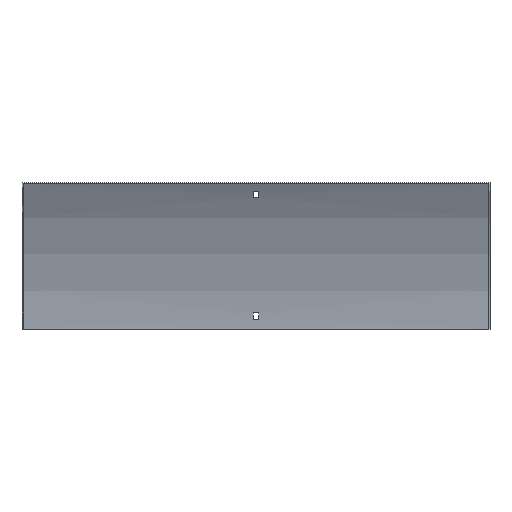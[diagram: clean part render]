
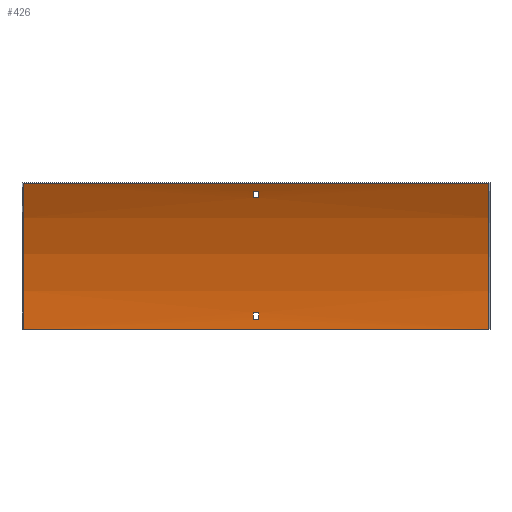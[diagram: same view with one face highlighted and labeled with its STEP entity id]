
A CAD part, front view. The second image highlights one B-rep face of the part: STEP entity #426.
In plain terms, the highlighted cylindrical face has radius 375 mm (diameter 750 mm), a partial arc.
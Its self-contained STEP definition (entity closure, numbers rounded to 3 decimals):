
#4 = CIRCLE ( 'NONE', #440, 375. ) ;
#5 = VECTOR ( 'NONE', #58, 1000. ) ;
#8 = EDGE_CURVE ( 'NONE', #557, #306, #420, .T. ) ;
#18 = DIRECTION ( 'NONE',  ( 0., 0., -1. ) ) ;
#25 = CARTESIAN_POINT ( 'NONE',  ( 300., -1.5, 0. ) ) ;
#30 = CARTESIAN_POINT ( 'NONE',  ( 301.5, -45.907, 177.012 ) ) ;
#35 = VERTEX_POINT ( 'NONE', #577 ) ;
#42 = VERTEX_POINT ( 'NONE', #381 ) ;
#44 = EDGE_LOOP ( 'NONE', ( #594, #98, #177, #154 ) ) ;
#51 = CARTESIAN_POINT ( 'NONE',  ( 301.5, -376.5, 0. ) ) ;
#52 = CIRCLE ( 'NONE', #282, 375. ) ;
#58 = DIRECTION ( 'NONE',  ( 1., 0., 0. ) ) ;
#66 = LINE ( 'NONE', #380, #301 ) ;
#67 = CARTESIAN_POINT ( 'NONE',  ( 3.25, -376.5, 0. ) ) ;
#76 = DIRECTION ( 'NONE',  ( 0., 0., 1. ) ) ;
#94 = VERTEX_POINT ( 'NONE', #592 ) ;
#95 = CIRCLE ( 'NONE', #601, 375. ) ;
#98 = ORIENTED_EDGE ( 'NONE', *, *, #468, .T. ) ;
#111 = EDGE_LOOP ( 'NONE', ( #344, #337, #526, #191 ) ) ;
#115 = EDGE_CURVE ( 'NONE', #137, #35, #500, .T. ) ;
#118 = AXIS2_PLACEMENT_3D ( 'NONE', #161, #241, #18 ) ;
#129 = DIRECTION ( 'NONE',  ( 0., 0., -1. ) ) ;
#137 = VERTEX_POINT ( 'NONE', #496 ) ;
#139 = CIRCLE ( 'NONE', #233, 375. ) ;
#142 = CYLINDRICAL_SURFACE ( 'NONE', #346, 375. ) ;
#146 = LINE ( 'NONE', #289, #5 ) ;
#154 = ORIENTED_EDGE ( 'NONE', *, *, #373, .T. ) ;
#157 = LINE ( 'NONE', #290, #226 ) ;
#161 = CARTESIAN_POINT ( 'NONE',  ( 300., -376.5, 0. ) ) ;
#172 = FACE_BOUND ( 'NONE', #554, .T. ) ;
#177 = ORIENTED_EDGE ( 'NONE', *, *, #115, .T. ) ;
#180 = VERTEX_POINT ( 'NONE', #328 ) ;
#191 = ORIENTED_EDGE ( 'NONE', *, *, #576, .T. ) ;
#210 = EDGE_CURVE ( 'NONE', #225, #94, #52, .T. ) ;
#214 = CARTESIAN_POINT ( 'NONE',  ( 301.5, -2.088, 21. ) ) ;
#215 = LINE ( 'NONE', #214, #345 ) ;
#220 = VERTEX_POINT ( 'NONE', #390 ) ;
#225 = VERTEX_POINT ( 'NONE', #382 ) ;
#226 = VECTOR ( 'NONE', #575, 1000. ) ;
#232 = VECTOR ( 'NONE', #543, 1000. ) ;
#233 = AXIS2_PLACEMENT_3D ( 'NONE', #521, #273, #129 ) ;
#236 = EDGE_CURVE ( 'NONE', #42, #557, #250, .T. ) ;
#239 = EDGE_CURVE ( 'NONE', #581, #606, #157, .T. ) ;
#241 = DIRECTION ( 'NONE',  ( 1., 0., 0. ) ) ;
#249 = DIRECTION ( 'NONE',  ( -1., 0., 0. ) ) ;
#250 = LINE ( 'NONE', #25, #232 ) ;
#266 = EDGE_CURVE ( 'NONE', #42, #180, #539, .T. ) ;
#267 = CARTESIAN_POINT ( 'NONE',  ( 3.25, -376.5, 0. ) ) ;
#273 = DIRECTION ( 'NONE',  ( 1., 0., 0. ) ) ;
#282 = AXIS2_PLACEMENT_3D ( 'NONE', #67, #436, #331 ) ;
#289 = CARTESIAN_POINT ( 'NONE',  ( 301.5, -1.692, 12. ) ) ;
#290 = CARTESIAN_POINT ( 'NONE',  ( 301.5, -41.75, 169.019 ) ) ;
#301 = VECTOR ( 'NONE', #249, 1000. ) ;
#306 = VERTEX_POINT ( 'NONE', #544 ) ;
#307 = EDGE_CURVE ( 'NONE', #94, #474, #215, .T. ) ;
#328 = CARTESIAN_POINT ( 'NONE',  ( 300., -51.74, 187.5 ) ) ;
#331 = DIRECTION ( 'NONE',  ( 0., 0., -1. ) ) ;
#337 = ORIENTED_EDGE ( 'NONE', *, *, #236, .F. ) ;
#341 = CARTESIAN_POINT ( 'NONE',  ( -300., -1.5, 0. ) ) ;
#344 = ORIENTED_EDGE ( 'NONE', *, *, #8, .F. ) ;
#345 = VECTOR ( 'NONE', #399, 1000. ) ;
#346 = AXIS2_PLACEMENT_3D ( 'NONE', #51, #425, #374 ) ;
#350 = ORIENTED_EDGE ( 'NONE', *, *, #210, .F. ) ;
#351 = CARTESIAN_POINT ( 'NONE',  ( -3.25, -376.5, 0. ) ) ;
#358 = FACE_OUTER_BOUND ( 'NONE', #111, .T. ) ;
#366 = DIRECTION ( 'NONE',  ( 1., 0., 0. ) ) ;
#373 = EDGE_CURVE ( 'NONE', #35, #581, #95, .T. ) ;
#374 = DIRECTION ( 'NONE',  ( 0., 0., 1. ) ) ;
#379 = EDGE_CURVE ( 'NONE', #474, #220, #4, .T. ) ;
#380 = CARTESIAN_POINT ( 'NONE',  ( 300., -51.74, 187.5 ) ) ;
#381 = CARTESIAN_POINT ( 'NONE',  ( 300., -1.5, 0. ) ) ;
#382 = CARTESIAN_POINT ( 'NONE',  ( 3.25, -1.692, 12. ) ) ;
#390 = CARTESIAN_POINT ( 'NONE',  ( -3.25, -1.692, 12. ) ) ;
#397 = ORIENTED_EDGE ( 'NONE', *, *, #607, .F. ) ;
#399 = DIRECTION ( 'NONE',  ( -1., 0., 0. ) ) ;
#406 = DIRECTION ( 'NONE',  ( 1., 0., 0. ) ) ;
#418 = CARTESIAN_POINT ( 'NONE',  ( -3.25, -2.088, 21. ) ) ;
#420 = CIRCLE ( 'NONE', #431, 375. ) ;
#425 = DIRECTION ( 'NONE',  ( -1., 0., 0. ) ) ;
#426 = ADVANCED_FACE ( 'NONE', ( #172, #358, #552 ), #142, .F. ) ;
#427 = ORIENTED_EDGE ( 'NONE', *, *, #307, .F. ) ;
#431 = AXIS2_PLACEMENT_3D ( 'NONE', #572, #366, #517 ) ;
#436 = DIRECTION ( 'NONE',  ( 1., 0., 0. ) ) ;
#440 = AXIS2_PLACEMENT_3D ( 'NONE', #351, #602, #76 ) ;
#445 = CARTESIAN_POINT ( 'NONE',  ( 3.25, -41.75, 169.019 ) ) ;
#468 = EDGE_CURVE ( 'NONE', #606, #137, #139, .T. ) ;
#474 = VERTEX_POINT ( 'NONE', #418 ) ;
#496 = CARTESIAN_POINT ( 'NONE',  ( -3.25, -45.907, 177.012 ) ) ;
#500 = LINE ( 'NONE', #30, #588 ) ;
#502 = DIRECTION ( 'NONE',  ( 0., 0., 1. ) ) ;
#517 = DIRECTION ( 'NONE',  ( 0., 0., -1. ) ) ;
#521 = CARTESIAN_POINT ( 'NONE',  ( -3.25, -376.5, 0. ) ) ;
#526 = ORIENTED_EDGE ( 'NONE', *, *, #266, .T. ) ;
#539 = CIRCLE ( 'NONE', #118, 375. ) ;
#543 = DIRECTION ( 'NONE',  ( -1., 0., 0. ) ) ;
#544 = CARTESIAN_POINT ( 'NONE',  ( -300., -51.74, 187.5 ) ) ;
#552 = FACE_BOUND ( 'NONE', #44, .T. ) ;
#554 = EDGE_LOOP ( 'NONE', ( #561, #427, #350, #397 ) ) ;
#557 = VERTEX_POINT ( 'NONE', #341 ) ;
#561 = ORIENTED_EDGE ( 'NONE', *, *, #379, .F. ) ;
#572 = CARTESIAN_POINT ( 'NONE',  ( -300., -376.5, 0. ) ) ;
#574 = CARTESIAN_POINT ( 'NONE',  ( -3.25, -41.75, 169.019 ) ) ;
#575 = DIRECTION ( 'NONE',  ( -1., 0., 0. ) ) ;
#576 = EDGE_CURVE ( 'NONE', #180, #306, #66, .T. ) ;
#577 = CARTESIAN_POINT ( 'NONE',  ( 3.25, -45.907, 177.012 ) ) ;
#581 = VERTEX_POINT ( 'NONE', #445 ) ;
#588 = VECTOR ( 'NONE', #406, 1000. ) ;
#592 = CARTESIAN_POINT ( 'NONE',  ( 3.25, -2.088, 21. ) ) ;
#594 = ORIENTED_EDGE ( 'NONE', *, *, #239, .T. ) ;
#595 = DIRECTION ( 'NONE',  ( -1., 0., 0. ) ) ;
#601 = AXIS2_PLACEMENT_3D ( 'NONE', #267, #595, #502 ) ;
#602 = DIRECTION ( 'NONE',  ( -1., 0., 0. ) ) ;
#606 = VERTEX_POINT ( 'NONE', #574 ) ;
#607 = EDGE_CURVE ( 'NONE', #220, #225, #146, .T. ) ;
